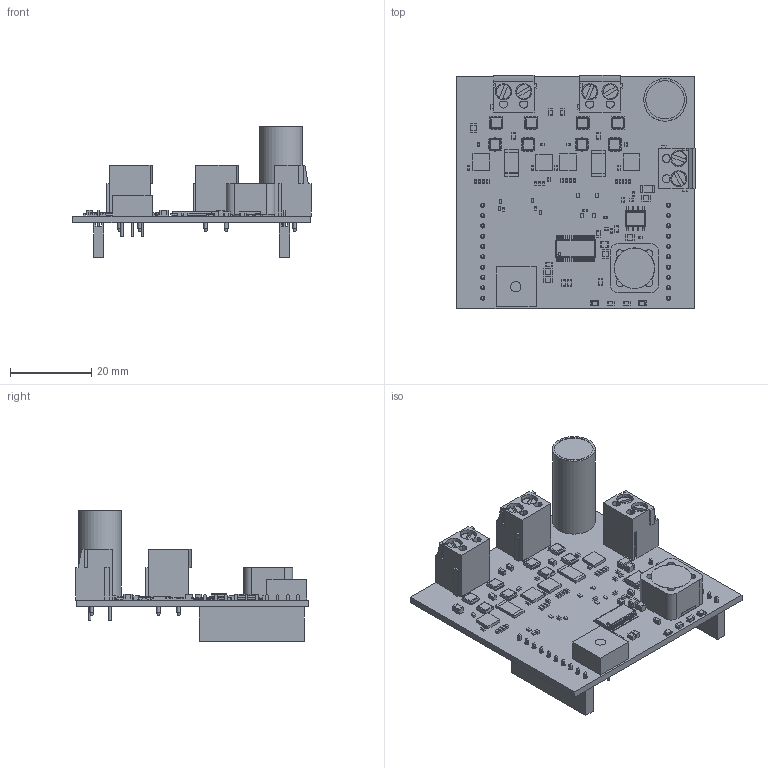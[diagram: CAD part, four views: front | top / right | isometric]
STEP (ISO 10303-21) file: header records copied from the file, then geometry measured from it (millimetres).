
FILE_DESCRIPTION(('Open CASCADE Model'),'2;1');
FILE_NAME('Open CASCADE Shape Model','2016-12-05T11:13:31',('Author'),( 'Open CASCADE'),'Open CASCADE STEP processor 6.8','Open CASCADE 6.8' ,'Unknown');
FILE_SCHEMA(('AUTOMOTIVE_DESIGN { 1 0 10303 214 1 1 1 1 }'));
Length unit declared in the file: millimetre
Products named in the file (166): PCB; Board; C26; 1310145224; Extruded; 1310145360; C25; C24; C23; Q12; YJC0003A; BODY-PICOSTAR; PADS-PICOSTAR-SM; PADS-PICOSTAR-LG; Q16; Q7; DNH0008A; FRAME; FRAME_3; FRAME_4; FRAME_5; FRAME_6; FRAME_7; BODY; Q8; U6; 1310146040; Q5; R12; 1310146176; 1310146312; C16; 1310145496; 1310145632; C20; 1310144680; 1310144816; U4; Q6; J5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
Assembly tree (361 placements, depth 5):
  PCB
    Board
    C26
      1310145224  x2
        Extruded
      1310145360
        Extruded
    C25
      1310145224  x2
        Extruded
      1310145360
        Extruded
    C24
      1310145224  x2
        Extruded
      1310145360
        Extruded
    C23
      1310145224  x2
        Extruded
      1310145360
        Extruded
    Q12
      YJC0003A
        BODY-PICOSTAR
        PADS-PICOSTAR-SM  x2
        PADS-PICOSTAR-LG
    Q16
      YJC0003A
        BODY-PICOSTAR
        PADS-PICOSTAR-SM  x2
        PADS-PICOSTAR-LG
    Q7
      DNH0008A
        FRAME
          FRAME_3
          FRAME_4
          FRAME_5
          FRAME_6
          FRAME_7
        BODY
    Q8
      DNH0008A
        FRAME
          FRAME_3
          FRAME_4
          FRAME_5
          FRAME_6
          FRAME_7
        BODY
    U6
      1310146040
        Extruded
    Q5
      DNH0008A
        FRAME
          FRAME_3
          FRAME_4
          FRAME_5
          FRAME_6
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Bounding box: 58.61 x 57.34 x 32.18 mm (x, y, z)
Volume: 12551.2 mm3; surface area: 19329.2 mm2
Topology: 329 solids, 329 shells, 5109 faces, 12761 edges, 8267 vertices
Faces by surface type: plane 4264, cylinder 696, sphere 72, bspline 40, cone 19, torus 18
Full cylindrical faces by diameter (mm): 0.559 x3, 0.6 x2, 0.787 x3, 0.85 x2, 0.95 x6, 0.98 x1, 1 x1, 1.02 x20, 1.3 x6, 2.2 x6, 2.459 x6, 3 x18, 3.1 x6, 3.9 x6, 4 x6, 9.45 x1, 9.9 x1
Entity records: 134065 total; most frequent: CARTESIAN_POINT 47890, DIRECTION 14202, LINE 9048, VECTOR 9048, ORIENTED_EDGE 7610, PCURVE 7610, DEFINITIONAL_REPRESENTATION 7610, EDGE_CURVE 3805
